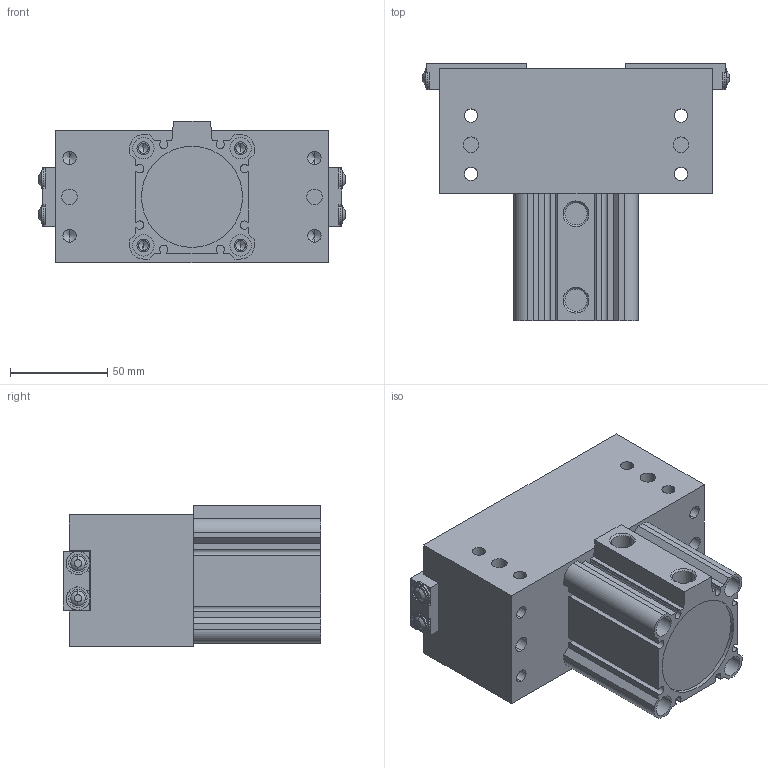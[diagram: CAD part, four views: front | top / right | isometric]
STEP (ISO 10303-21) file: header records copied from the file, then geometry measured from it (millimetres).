
FILE_DESCRIPTION (( 'STEP AP203' ), '1' );
FILE_NAME ('PPE-50-S.step', '2017-02-15T12:24:39', ( '' ), ( '' ), 'SwSTEP 2.0', 'SolidWorks 2012', '' );
FILE_SCHEMA (( 'CONFIG_CONTROL_DESIGN' ));
Length unit declared in the file: millimetre
Products named in the file (4): PPE-50-S; S-50-25; PPE50-2; PPE-50-1
Assembly tree (4 placements, depth 2):
  PPE-50-S
    PPE-50-1
    PPE50-2  x2
    S-50-25
Bounding box: 157.4 x 132.5 x 73 mm (x, y, z)
Volume: 729399.6 mm3; surface area: 120771.5 mm2
Topology: 4 solids, 4 shells, 433 faces, 1064 edges, 678 vertices
Faces by surface type: cylinder 208, plane 163, cone 46, torus 16
Entity records: 10035 total; most frequent: CARTESIAN_POINT 1765, DIRECTION 1757, ORIENTED_EDGE 1540, EDGE_CURVE 770, AXIS2_PLACEMENT_3D 673, VERTEX_POINT 501, LINE 411, VECTOR 411
